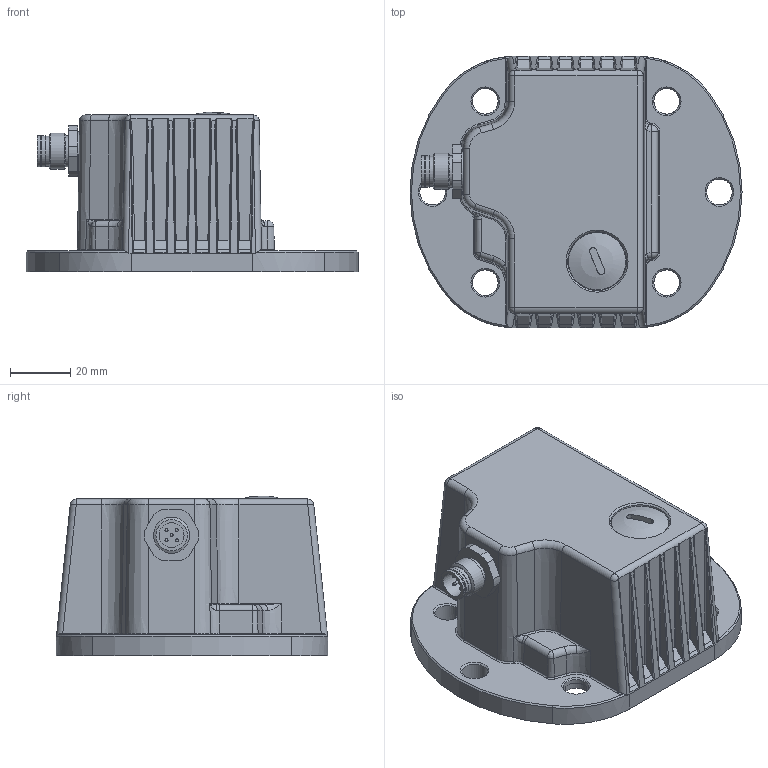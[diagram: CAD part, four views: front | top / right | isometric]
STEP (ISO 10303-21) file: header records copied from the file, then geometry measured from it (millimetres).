
FILE_DESCRIPTION(/* description */ ('Unknown'),/* implementation_level */ '2;1');
FILE_NAME(/* name */ 'EAM_110M_M12R',/* time_stamp */ '2024-06-17T17:46:54+02:00',/* author */ ('Unknown'),/* organization */ ('Unknown'),/* preprocessor_version */ 'ST-DEVELOPER v16.7',/* originating_system */ 'DEX',/* authorisation */ $);
FILE_SCHEMA (('AUTOMOTIVE_DESIGN {1 0 10303 214 3 1 1}'));
Length unit declared in the file: millimetre
Products named in the file (1): EAM_110M_M12R2
Bounding box: 110 x 89.98 x 52.97 mm (x, y, z)
Volume: 72473.3 mm3; surface area: 75406.2 mm2
Topology: 12 solids, 12 shells, 1312 faces, 3213 edges, 1939 vertices
Faces by surface type: plane 667, cylinder 332, cone 154, bspline 90, torus 59, sphere 10
Full cylindrical faces by diameter (mm): 0.9 x5, 1 x5, 1.5 x5, 1.6 x4, 2.2 x40, 2.5 x4, 4.134 x1, 4.5 x4, 5 x1, 8.25 x1, 8.5 x6, 10 x2, 10.4 x3, 12 x2, 12.4 x1, 13 x1, 14.376 x1, 14.53 x1, 15 x1, 15.2 x2, 16 x1, 19 x1, 19.5 x1, 20 x1
Entity records: 46663 total; most frequent: CARTESIAN_POINT 12990, DIRECTION 5901, ORIENTED_EDGE 5792, EDGE_CURVE 2896, AXIS2_PLACEMENT_3D 2114, VERTEX_POINT 1812, LINE 1673, VECTOR 1673
